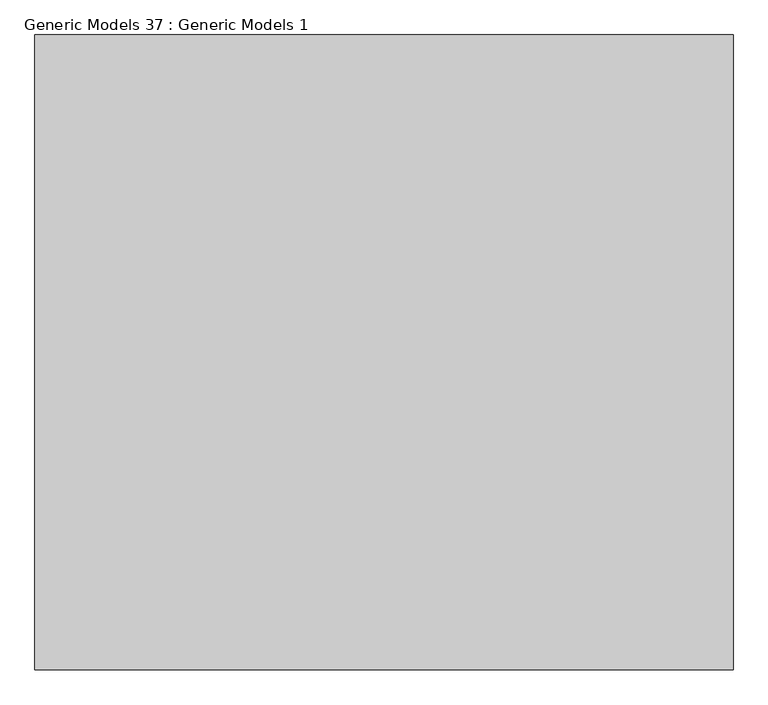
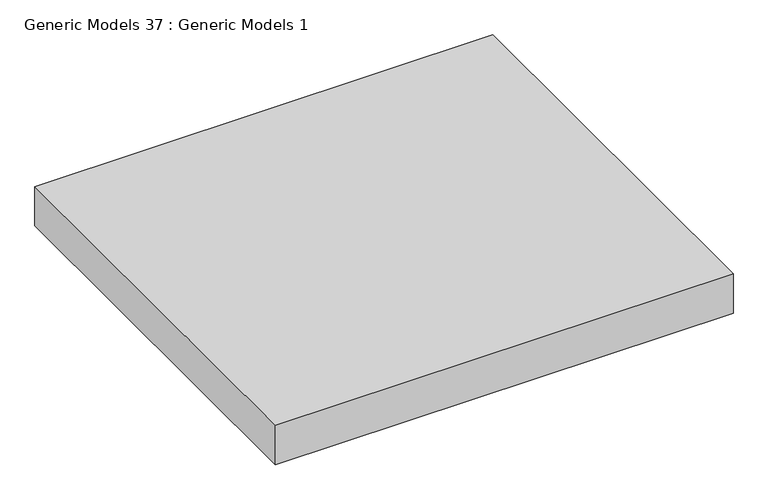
"""IFC4 building model written with IfcOpenShell, lengths in millimetres: proxy geometry, Generic Models 37 : Generic Models 1."""

from ifc_helpers import new_model, si_unit, origin, origin_with_axes, place, context, project, spatial, polyline, outline, extrude, source, transform, mapped, element, save


def generic_models_37_generic_models_1_eac99d5e(model_context):
    return source(origin(), model_context, "Body", "SweptSolid", [
        extrude(outline(polyline([(8037.1851171, -7746.5772826), (8037.1851171, -6746.5772826), (9137.1851171, -6746.5772826), (9137.1851171, -7746.5772826), (8037.1851171, -7746.5772826)])), origin_with_axes(), (0.0, 0.0, 1.0), 100.0),
    ])


if __name__ == "__main__":
    model = new_model("IFC4")
    model_context = context("Model", 3, world=origin())
    ifc_project = project(units=[si_unit("LENGTHUNIT", "METRE", prefix="MILLI")], contexts=[model_context])
    site = spatial("IfcSite", under=ifc_project)
    building = spatial("IfcBuilding", under=site)
    placement = place(None, origin())
    generic_models_37_generic_models_1_shape = generic_models_37_generic_models_1_eac99d5e(model_context)
    element("IfcBuildingElementProxy", 1, Name="Generic Models 37 : Generic Models 1", ObjectType="Generic Models 37 : Generic Models 1", at=placement, inside=building, context=model_context, shape_type="MappedRepresentation", body=[
        mapped(generic_models_37_generic_models_1_shape, transform((0.0, 0.0, 0.0), x_axis=(1.0, 0.0, 0.0), y_axis=(0.0, 1.0, 0.0), z_axis=(0.0, 0.0, 1.0))),
    ])
    save(model, "model.ifc")
